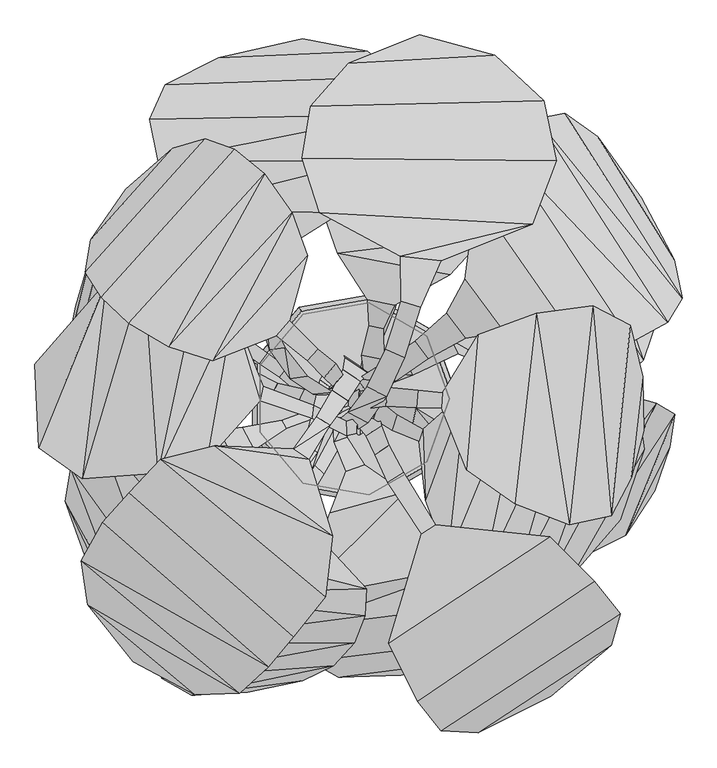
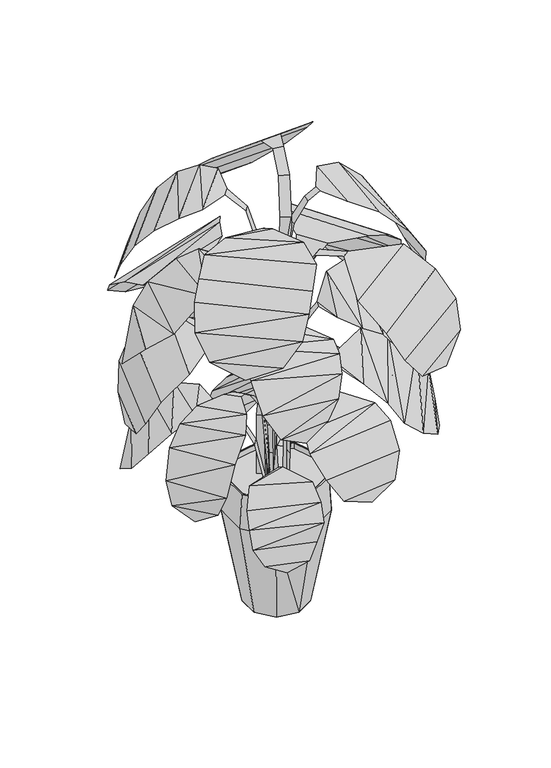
"""IFC4 building model written with IfcOpenShell, lengths in millimetres: geographic element geometry, Enscape AssetDefinition - Potted Plant 120 Monstera Deliciosa : Enscape AssetDefinition - Potted Plant 120 Monstera Deliciosa."""

from ifc_helpers import new_model, si_unit, origin, place, context, project, spatial, triangles, source, transform, mapped, element, save


def geographic_element_f887d327(model_context):
    return source(origin(), model_context, "Body", "Tessellation", [
        triangles([(-548.914024, 59.2540004, 1087.1479586), (14.1820002, -55.9360025, 468.888022), (-15.2340004, -26.6000002, 476.3439986), (-463.0500063, -270.8930035, 627.2840223), (-16.5400004, -15.1439998, 472.4410028), (85.1020002, -478.4019762, 638.721987), (524.0640146, -159.2659872, 598.994034), (23.0680006, -13.3640008, 471.2879846), (36.1669989, -10.7620009, 451.4220097), (527.7839911, 234.3949951, 541.5279922), (49.4999991, 8.3140007, 472.6490207), (119.8279965, 563.2029774, 701.6469978), (-436.7649828, 265.9429968, 503.152028), (-34.1569994, -3.8970002, 458.9159926), (-11.7490001, 8.2110001, 442.7750084), (-478.2890107, 160.2649996, 761.3989466), (-2.7759999, 3.795, 454.7840137), (-85.9950053, 622.4560467, 903.3240046), (-391.6290024, 362.7280048, 1215.7909784), (-13.6599992, 33.5120011, 464.9280167), (-13.3709998, 74.9890002, 430.3340163), (-379.1219896, -454.7910264, 1273.4078831), (-0.957, -21.1839995, 450.3779963), (344.7430198, -515.0640189, 1114.5980272), (2.6650002, -35.1839988, 471.0490093), (464.6879877, -209.6679979, 889.9790342), (500.6489831, 347.9729825, 919.9359993), (23.5389997, -6.5950002, 475.7650005), (33.496, 7.1140002, 447.2410149), (121.6440012, 444.3430086, 402.687012), (11.3319993, -45.7220002, 456.8740025), (116.6929953, 629.2669682, 1252.3799515), (-8.0469998, -29.3300002, 479.8929826), (505.3399758, -55.047998, 1198.3150103), (-45.2390037, 49.5090011, 459.4359827), (-180.7689988, -507.9349846, 985.2380453), (-21.6719988, -13.616999, 473.6750118), (-215.9159995, -442.6569923, 442.0270163), (114.2669987, 0.0, 0.0), (140.4309995, 117.5900063, 370.8530176), (19.8420006, 112.5309946, 0.0), (87.5340011, 73.4490006, 0.0), (87.5340011, -73.4490006, 0.0), (140.1890084, -117.8790057, 370.8530176), (133.9119933, -112.3659974, 502.4059979), (31.6199995, -180.4119893, 370.8530176), (174.8100057, 0.0, 502.4059979), (30.3550013, -172.1539905, 502.4059979), (168.9070048, 0.0, 502.4059979), (-87.4050028, -151.3900053, 502.4059979), (129.3900037, -108.5719975, 502.4059979), (129.3900037, -108.5719975, 481.2920251), (168.9070048, 0.0, 481.2920251), (129.3910029, 108.5709983, 502.4059979), (0.0, 0.0, 481.2920251), (29.3300002, -166.3410095, 502.4059979), (-84.454002, -146.27799, 502.4059979), (-84.454002, -146.27799, 481.2920251), (29.3300002, -166.3410095, 481.2920251), (-164.2680074, -59.7889968, 502.4059979), (-158.7209986, -57.7699976, 502.4059979), (-164.2680074, 59.7889968, 502.4059979), (-158.7209986, 57.7699976, 502.4059979), (-158.7209986, -57.7699976, 481.2920251), (-172.1809874, -62.4679984, 370.8530176), (-91.4179937, 158.7170018, 370.8530176), (-158.7209986, 57.7699976, 481.2920251), (30.3550013, 172.1539905, 502.4059979), (-87.4050028, 151.3900053, 502.4059979), (-84.454002, 146.27799, 502.4059979), (29.3300002, 166.3410095, 502.4059979), (-84.454002, 146.27799, 481.2920251), (29.3300002, 166.3410095, 481.2920251), (129.3910029, 108.5709983, 481.2920251), (133.9119933, 112.3659974, 502.4059979), (183.1620031, -0.188, 370.8530176), (31.9910002, 180.346005, 370.8530176), (-57.133999, 98.958004, 0.0), (-107.376004, 39.0819986, 0.0), (0.0, 0.0, 0.0), (-57.133999, -98.958004, 0.0), (-172.0519981, 62.8220012, 370.8530176), (-107.376004, -39.0819986, 0.0), (19.8420006, -112.5309946, 0.0), (-91.7440003, -158.5290045, 370.8530176), (-135.2620018, -451.9990093, 467.2619948), (-101.3049992, -442.9939994, 524.1829754), (-290.6880162, -428.6440032, 482.9439955), (-323.6329711, -409.3810075, 547.4540113), (-70.4500012, -435.4729832, 586.327002), (-324.4999967, -385.5719956, 614.3340134), (-61.8830005, -400.1380033, 643.6629644), (-70.2650016, -358.2580015, 702.330023), (-317.071998, -357.1829945, 672.6960033), (-283.7510123, -315.6260107, 735.907988), (-154.5359888, -306.6320103, 759.203005), (-119.8259981, -250.1949936, 795.0620081), (-166.626003, -303.7419977, 761.5610006), (-86.7789963, -193.4680056, 799.3389999), (-136.8100086, -242.3350083, 800.8419605), (-47.9520013, -129.5689899, 756.7160202), (-102.406004, -182.4630087, 805.5220528), (-17.6369992, -75.4809986, 661.7959419), (-64.2369993, -114.6190031, 762.2409737), (-1.7829999, -35.0610026, 471.8640032), (-34.0490004, -58.9670039, 665.9489588), (-85.4760054, -487.688982, 1028.1009813), (-277.4769948, -512.6680169, 1035.0029583), (-31.9099981, -461.7890004, 1082.9110079), (-329.102005, -483.633997, 1132.3889471), (4.0299999, -421.8519759, 1145.3980368), (22.5549982, -375.0779778, 1191.3210331), (-339.6480183, -422.803989, 1237.680994), (-324.7370098, -338.0259879, 1311.967012), (25.5560005, -328.692001, 1220.2939739), (-287.6980097, -249.4250007, 1344.938982), (-40.2409985, -257.7649894, 1250.0520412), (-83.9539962, -166.0599947, 1235.3509037), (-188.3099992, -193.6029901, 1307.10103), (-59.7979988, -92.4869964, 1128.3030773), (-104.1589947, -154.2390048, 1241.8310314), (-81.7169961, -77.5930018, 1133.6590004), (-69.5659981, -29.1970006, 1002.9950283), (-43.210998, -48.8769993, 999.2359554), (-55.2649997, 32.8539994, 726.4189596), (-21.1149993, 6.5660004, 724.4809965), (-17.1519997, 27.7930006, 458.7939797), (483.9250039, -136.4600028, 1255.6669601), (503.4689781, 38.2529976, 1238.1829983), (482.0619999, 127.0209986, 1326.3760162), (417.0350098, 161.0089949, 1437.8680481), (448.8640263, -202.8790046, 1348.1780285), (319.2229932, 147.8140063, 1533.8071049), (376.522984, -217.7419963, 1459.3379585), (282.124004, -181.9570076, 1549.4480106), (217.9440007, 110.8559969, 1575.2439651), (198.2020008, -122.7850017, 1583.8470737), (156.6999919, 10.3949994, 1576.7229446), (114.0059954, 14.4729992, 1551.82897), (155.1530115, -16.0489999, 1577.7000652), (61.8490001, 19.7219998, 1476.009906), (111.389004, -15.6529996, 1552.4409966), (59.0329973, -13.0279998, 1476.8081131), (35.5300011, 17.1329999, 1358.1919521), (14.0030004, 12.8619999, 1172.8329901), (32.8680019, -16.4679992, 1359.9300728), (10.8599998, -25.0189988, 1173.4910168), (12.5989993, 16.3579995, 879.163052), (9.249, -23.7649988, 879.5649897), (-5.1320002, 6.1009999, 478.7810228), (-6.0220002, 580.5460321, 1296.2019859), (-71.4640018, 506.1460313, 1382.0810463), (247.3799947, 594.5320244, 1286.335873), (332.38102, 515.124989, 1382.3060326), (-86.1250028, 415.5999956, 1484.6550179), (354.1179926, 411.9999973, 1500.414085), (-56.3560032, 321.3679931, 1575.7561432), (83.6319955, 246.360998, 1642.7391186), (312.4349991, 301.5730167, 1605.2239666), (84.9219967, 168.2360065, 1657.2010265), (153.8609937, 238.4590094, 1650.5110279), (57.6369979, 85.4189958, 1609.1230019), (91.2169976, 70.3499982, 1611.3810036), (118.9080036, 158.4550083, 1661.99492), (25.9110002, 20.806999, 1495.0709518), (59.6089978, 3.3489999, 1494.2390259), (-7.0600001, -23.079001, 1243.646909), (28.0380006, -41.3860004, 1242.3590515), (-22.472, -35.925001, 910.3419628), (-22.5989999, -28.0649998, 457.5969961), (10.576001, -53.1240012, 909.7369852), (208.9910043, 455.3300197, 448.8570136), (29.7289993, 435.3609987, 444.3979835), (-5.3440001, 429.727004, 484.4429955), (241.2340035, 457.0339854, 496.0720096), (-24.2799996, 408.0299998, 536.8829996), (-16.2360003, 387.6009779, 594.7549759), (260.5370041, 436.2659944, 555.4429859), (256.0270141, 408.4039959, 621.6090054), (24.8290009, 364.0980157, 648.8900436), (214.0340105, 371.497019, 676.1590187), (100.9239996, 329.7520017, 708.0630306), (87.2720077, 278.5549995, 741.8970119), (122.4030029, 328.2960222, 713.5089918), (104.8529931, 274.967991, 747.8949743), (66.6399958, 222.5019892, 750.4230177), (87.3730008, 214.9749959, 758.2719572), (45.509, 175.486, 727.9049881), (75.2770004, 158.0979989, 737.4350023), (46.2500022, 87.4499946, 651.5690226), (24.8719988, 101.7830042, 646.224), (14.3699997, 50.5190003, 543.7149954), (14.3659995, 20.6630011, 444.4799915), (38.8159992, 33.8630016, 549.3040074), (75.4840008, 29.9150004, 1031.9709486), (35.2500014, -0.719, 866.913945), (8.5239999, 33.5349988, 867.2639963), (-1.055, 24.8980011, 475.7990101), (51.6109985, 60.8400001, 1032.9320091), (196.4440049, 104.5280038, 1211.2390034), (108.638, 99.5380013, 1142.2440142), (131.4489987, 69.5009994, 1140.8499132), (163.7820087, 147.8729962, 1213.4519497), (263.1390073, 116.2409971, 1249.1529682), (399.1379917, 84.3640002, 1251.7660355), (214.3590088, 348.8340128, 1266.7889557), (195.6990104, 206.3210001, 1253.9599422), (261.1049927, 432.3840002, 1230.2089211), (483.9420087, 97.249996, 1216.6760262), (546.3219947, 131.9980022, 1153.8189617), (571.4230062, 173.6550071, 1076.0410057), (320.2880081, 484.3430017, 1159.5469551), (558.1669839, 240.4170113, 999.555994), (425.2539848, 453.6300144, 990.6140253), (368.7750195, 494.1450196, 1071.4559658), (506.2850126, -87.259999, 956.604982), (496.9849989, -22.3620003, 1038.0189079), (326.1929893, -337.0320079, 1017.9890259), (380.7520137, -305.8140006, 952.8690182), (449.5090087, 6.2259997, 1118.9030697), (279.8239809, -326.5689837, 1085.471026), (383.5049706, 28.7500007, 1170.479064), (226.2759958, -304.2900021, 1154.9589357), (303.2360148, 55.5000008, 1215.5350348), (165.223, -276.8959983, 1183.0240831), (196.6080029, 11.7189999, 1224.0209267), (122.490007, -53.0109994, 1167.8979715), (127.482998, -175.2920075, 1177.667942), (77.6630012, -27.3429985, 1094.9110022), (115.9059975, -73.5749967, 1165.6750694), (69.0440006, -54.2090004, 1091.9800037), (47.3230017, -3.4659999, 989.4109737), (37.5959996, -34.8929987, 987.1320431), (27.0399988, 12.5750001, 782.6330429), (12.8309994, -0.934, 469.3870105), (14.0620005, -30.9430014, 783.1189871), (449.3919737, -426.5010017, 1168.2600134), (464.2260246, -371.6700099, 1255.4270039), (154.1319982, -574.0669945, 1239.7289795), (218.1400098, -578.2619782, 1155.2189489), (419.4589897, -315.9639988, 1354.7430347), (113.2399993, -523.3360067, 1329.766943), (342.66702, -238.8419984, 1435.258033), (63.5410025, -423.1290055, 1416.2900047), (144.8780027, -218.0009922, 1460.9890205), (88.9750015, -127.0069915, 1433.1779274), (120.5769969, -233.6149919, 1459.4231277), (39.9180031, -96.611999, 1326.7280296), (61.2159991, -144.7030043, 1431.0750034), (64.4190013, -80.8169965, 1328.2969746), (51.0720007, -46.5609979, 1103.497978), (24.382001, -64.0499967, 1102.9950291), (45.2869977, -17.5819994, 819.4900229), (29.7640013, -1.089, 452.3549832), (6.573, -42.9739985, 818.9580059), (-457.6590199, -356.6059948, 1313.7789654), (-271.1719836, -512.2759987, 1318.1459953), (-194.4140053, -509.5900434, 1395.1840256), (-468.3699941, -280.3769995, 1389.1599747), (-144.2819999, -463.5879822, 1460.0440201), (-431.590008, -213.6349977, 1457.7820942), (-101.5190032, -411.8270064, 1506.631002), (-45.5839999, -342.7290075, 1552.3080105), (-385.7349944, -163.1170057, 1504.2820175), (-331.184, -104.429, 1546.1530083), (-238.1700009, -81.4390062, 1567.0729523), (-33.8880001, -237.314003, 1572.7101082), (-74.6070013, -104.8019969, 1560.0509972), (-38.2629988, -46.3019975, 1506.3650299), (-100.8400022, -86.4860001, 1559.6690437), (-7.1700003, -3.632, 1315.1509747), (-61.2049987, -31.1030002, 1506.5219971), (14.8659996, 30.1170003, 1019.6579647), (-34.7630012, 14.6730006, 1315.3091045), (28.6200009, 44.1559984, 724.8010351), (-12.3229999, 71.2990001, 725.0360498), (-15.8210001, 50.449001, 1019.9880318), (30.5810004, 45.8509985, 430.1359906), (-17.3659992, 44.2759993, 883.9669739), (-31.0659998, 13.7909994, 464.8940071), (-15.3610003, 41.6100011, 1177.8190229), (-33.0069992, 21.6359999, 1178.0810709), (-42.4860014, 15.8610004, 884.7840025), (-58.612002, 85.2250033, 1529.2970604), (-27.4659993, 60.1300007, 1397.7479679), (-48.3990034, 36.3329976, 1397.4240051), (-107.6690003, 135.1100034, 1586.1610313), (-76.6030005, 65.2630041, 1529.9260918), (-130.4039952, 108.4199992, 1586.2241089), (-241.1910011, 65.3119973, 1590.3490025), (-77.3209981, 246.9999852, 1589.6409061), (-150.883005, 388.7659867, 1513.7830364), (-103.9170037, 321.6320031, 1566.3509033), (-317.5129958, 89.934, 1567.2960491), (-386.4959945, 130.5260081, 1517.4079605), (-203.2629928, 431.3259979, 1441.7130169), (-253.8790166, 450.0199877, 1351.6029648), (-310.5210171, 433.5050074, 1262.4360237), (-461.6149921, 218.4500018, 1357.5060928), (-434.1500261, 175.0979968, 1448.0619026), (-452.6249886, 275.1620198, 1266.5049614), (-231.1639968, 589.6059806, 942.8380171), (-323.3079909, 543.3719931, 1009.1700874), (27.2419986, 600.9859909, 1004.8409912), (-350.0940013, 483.7109908, 1076.6079769), (80.327001, 556.7110044, 1116.5120819), (69.9269999, 490.9020126, 1197.5970308), (-335.9700088, 411.1259954, 1125.915069), (23.8410003, 411.9760162, 1237.3640076), (-314.2409935, 326.7239888, 1155.7300369), (-18.9590001, 322.0880073, 1251.8990215), (-158.8379973, 233.8729885, 1209.6659889), (-176.7240058, 233.2459918, 1203.8600206), (-150.7810036, 163.2130028, 1199.3479414), (-168.1900064, 161.4019941, 1193.4640709), (-142.7369997, 84.6400008, 1138.9519913), (-115.4239957, 87.7300012, 1147.7760166), (-107.2959944, 34.7610005, 1058.8029591), (-66.9720022, 7.551, 934.8100187), (-76.5310027, 38.6309996, 1068.2239683), (-24.6830001, 1.3989999, 453.6630066), (-33.0130013, 11.628, 942.9220236), (-499.9490258, 52.7440008, 794.0920092), (-450.3640074, 254.4380123, 822.3509674), (-500.7190006, -12.7039995, 874.4639929), (-426.6250131, 288.4489813, 917.2049887), (-466.2499927, -54.3640009, 974.6150019), (-382.9390168, 284.9259951, 1020.9430607), (-371.7549974, -76.396, 1065.7010118), (-227.6040034, 10.3290003, 1103.9190279), (-206.5020029, 66.3599983, 1113.6239588), (-286.1840215, 227.7839888, 1117.369079), (-142.833996, -2.0890001, 1026.7570227), (-129.159004, 26.3589993, 1029.8000782), (-96.7710009, -14.4330001, 921.2589563), (-82.0210019, 16.0230011, 924.2879866), (-61.9259984, -20.4959987, 791.1990171), (-28.6970015, -26.5360006, 439.6089952), (-46.9239981, 10.0209999, 793.4870316), (-64.2800017, 21.8409997, 639.7679987), (-81.935006, 1.2499999, 638.8580252), (-48.7849991, -20.3540015, 459.3290125), (-112.0189982, 53.3150006, 741.0219927), (-125.4879981, 37.1810018, 739.8509886), (-145.7300038, 78.6249973, 779.1749691), (-182.815004, 104.7149928, 794.6739504), (-180.6589946, 189.8799979, 797.3460257), (-196.0919915, 86.8190012, 792.6370108), (-160.08, 60.3940017, 777.2830061), (-273.0810059, 56.0120017, 782.8599913), (-221.2370047, 285.6389966, 761.1730156), (-363.3599793, 56.4940035, 744.9970407), (-277.1470004, 348.3260133, 691.0139986), (-437.0430182, 79.0759963, 676.6449629), (-340.0130033, 360.0009911, 610.2860046), (-472.4769745, 128.4179973, 602.0399963), (14.7809996, 559.9009987, 737.7049713), (219.626002, 529.8039986, 742.9800127), (-41.7320003, 519.0029863, 812.4399445), (257.4630093, 462.488994, 816.1659525), (-71.9640031, 471.202997, 876.6859503), (270.549002, 399.2100077, 867.3800503), (271.8999915, 339.2080015, 918.9469608), (-82.3550022, 416.4179689, 918.8969639), (-53.8910011, 332.9090037, 942.8899761), (-25.2429995, 251.7290025, 946.2529976), (232.2790087, 282.4830119, 946.5720188), (26.7830014, 171.541001, 923.3959625), (169.4550091, 214.7150009, 951.4239756), (29.7929989, 126.3639893, 867.9409899), (54.8149999, 121.0929992, 868.4650131), (73.5880001, 161.883996, 924.6010489), (16.8210004, 75.3000004, 721.8700367), (55.0220003, 67.7210027, 723.9430206), (25.5249999, 13.1760001, 471.7689872), (475.8700087, 299.3220095, 576.8799768), (532.2449833, 147.6089952, 571.7089625), (408.2100034, 345.8099968, 634.1670324), (337.4019708, 344.9940219, 720.9619526), (504.1909907, 66.3930041, 633.2080067), (265.09601, 292.5789981, 800.3280384), (449.2109891, 16.0220008, 718.4410309), (373.1120004, 12.516, 790.0110083), (216.4620054, 209.9560072, 840.14305), (285.3780024, 36.3019993, 832.1939713), (172.2200111, 101.3770061, 835.0339869), (92.4160069, 66.4170034, 785.7949865), (183.8149974, 77.5010016, 833.4989788), (104.7370027, 40.839999, 784.0800476), (34.3269995, 46.3270006, 694.0150509), (47.7860003, 19.1409987, 692.7739929), (3.742, 38.518997, 574.9570201), (24.4959998, -1.6189999, 575.977016), (30.2949986, 26.1029988, 473.6000164), (52.849999, -25.0109983, 678.6029829), (57.8939998, 2.347, 680.40905), (104.233, -51.2390009, 843.3020142), (111.1140026, -16.059, 846.7149599), (163.6649919, -79.3820005, 924.4580343), (171.6690092, -53.2860008, 930.0410511), (199.1259996, -224.0030059, 916.9650324), (335.9479897, 27.7339994, 941.4380299), (270.5559965, -260.9070033, 836.177013), (430.1220016, 19.3200008, 911.4239462), (322.2570013, -280.1609879, 751.2380116), (526.6749744, -7.3680005, 827.1589588), (396.1819948, -275.1489937, 682.2340113), (558.8989886, -27.1940001, 739.8730076), (474.2090272, -235.8439982, 625.925021), (549.916034, -84.3100064, 651.0519756), (186.0579928, -455.0950049, 679.840044), (224.9480063, -417.3890216, 759.5710058), (-72.4520002, -454.1139965, 766.7390276), (-23.2240003, -481.9819902, 682.3919958), (226.5660035, -355.8560042, 842.4040312), (-101.2210018, -397.2479908, 848.9649679), (206.0670004, -288.0280041, 879.0410391), (91.0649993, -161.4179997, 903.0089802), (-95.1299946, -346.6879955, 901.3140255), (-37.7320015, -197.4720127, 922.7889502), (21.9800015, -114.0420034, 898.7120041), (-8.3419997, -66.3639997, 859.4840206), (-10.139, -125.3779939, 904.1849985), (-30.7869993, -74.5820028, 863.4820324), (-9.1960003, -32.8619999, 757.4589981), (21.871001, -3.4559999, 473.0520121), (-33.6499991, -31.9290013, 759.4379471), (-418.4089811, -342.2360144, 680.4929838), (-495.9979952, -177.2059895, 645.7190163), (-396.3429952, -359.2319973, 750.976981), (-486.7500132, -120.3460063, 707.1609781), (-341.7570102, -322.1009789, 842.8859785), (-437.3799889, -59.595999, 784.7100237), (-267.9440011, -263.65798, 899.6170361), (-229.5099917, -202.8100044, 933.0429754), (-389.7080077, -43.7339993, 854.153968), (-316.2539884, -28.6150003, 891.9789848), (-168.7909872, -87.9720013, 924.0819672), (-189.7350031, -49.3669994, 914.9940044), (-229.6090045, -54.6270027, 923.2370333), (-198.6570057, -114.4309967, 937.5380499), (-112.8489985, -50.6510008, 873.6649864), (-121.0910008, -36.8819989, 870.8450277), (-60.7899986, -31.6429995, 796.9580406), (-25.9519997, -21.4869992, 705.1150274), (-69.1870015, -18.5880006, 794.9410126), (-36.5779999, -5.8880002, 704.0499762), (-17.4529999, -20.3069999, 591.4909673), (-28.5929994, -3.9750001, 590.7980227), (-28.3840006, -7.3239999, 475.3989982), (19.3099996, -27.0700001, 605.2700317), (18.7110002, -58.6600005, 604.6429988), (14.5880006, -35.1939978, 469.6440079), (10.5450004, -62.1270036, 891.9469374), (14.0870001, -62.0270006, 748.8649733), (14.7439992, -28.2899997, 748.9939625), (9.3839998, -32.7009995, 1035.0740295), (8.8369998, -59.9820037, 1035.7069851), (11.0789999, -35.0040021, 891.8329908), (-9.0650001, -38.6880001, 1211.4679865), (-66.4639982, -11.0429999, 1351.2900478), (-9.8719992, -64.2229967, 1214.0630316), (-69.3060031, -34.1380007, 1357.5270218), (-153.670998, 21.1340002, 1394.9920315), (-158.8349997, -3.6079999, 1403.0849968), (-251.6019935, -107.3949981, 1415.5021168), (-205.8710094, 152.5339853, 1369.8360088), (-268.4319982, 191.0620115, 1328.0840515), (-336.6700024, -129.2540018, 1396.9180767), (-360.9890121, 217.5480038, 1253.1589737), (-467.3529777, -138.8790048, 1296.7318954), (-425.2070037, 201.4500039, 1189.954038), (-542.406972, -84.6740013, 1229.4929764)], [[472, 1, 473], [472, 473, 471], [470, 472, 471], [470, 471, 469], [468, 470, 469], [469, 466, 467], [467, 468, 469], [467, 466, 465], [464, 467, 465], [464, 465, 463], [461, 464, 463], [461, 463, 462], [460, 461, 462], [460, 462, 458], [457, 460, 458], [458, 454, 459], [459, 457, 458], [454, 455, 456], [456, 459, 454], [455, 452, 451], [451, 456, 455], [452, 2, 453], [453, 451, 452], [450, 449, 448], [448, 3, 450], [449, 447, 445], [445, 448, 449], [445, 447, 446], [444, 445, 446], [444, 446, 443], [442, 444, 443], [442, 443, 439], [438, 442, 439], [439, 440, 441], [441, 438, 439], [441, 440, 437], [435, 441, 437], [435, 437, 436], [434, 435, 436], [434, 436, 433], [432, 434, 433], [432, 433, 431], [430, 432, 431], [430, 431, 429], [428, 430, 429], [428, 429, 4], [426, 5, 427], [425, 426, 427], [425, 427, 424], [422, 425, 424], [422, 424, 423], [421, 422, 423], [421, 423, 420], [418, 421, 420], [418, 420, 419], [417, 418, 419], [417, 419, 416], [415, 417, 416], [415, 416, 413], [412, 415, 413], [412, 413, 414], [411, 412, 414], [411, 414, 6], [409, 410, 408], [409, 7, 410], [407, 408, 406], [407, 409, 408], [405, 406, 404], [405, 407, 406], [403, 404, 402], [403, 405, 404], [401, 402, 400], [401, 403, 402], [399, 400, 398], [399, 401, 400], [397, 398, 396], [397, 399, 398], [395, 396, 394], [395, 397, 396], [8, 395, 394], [392, 9, 393], [392, 393, 391], [390, 392, 391], [390, 391, 389], [387, 390, 389], [387, 389, 388], [386, 387, 388], [386, 388, 385], [384, 386, 385], [384, 385, 383], [381, 384, 383], [381, 383, 382], [379, 381, 382], [379, 382, 380], [378, 379, 380], [378, 380, 377], [376, 378, 377], [376, 377, 10], [375, 11, 374], [373, 375, 374], [373, 374, 371], [370, 373, 371], [370, 371, 372], [368, 370, 372], [368, 372, 369], [366, 368, 369], [366, 369, 367], [365, 366, 367], [365, 367, 363], [364, 365, 363], [364, 363, 362], [361, 364, 362], [361, 362, 360], [359, 361, 360], [359, 360, 358], [357, 359, 358], [357, 358, 12], [355, 356, 354], [355, 13, 356], [353, 354, 352], [353, 355, 354], [351, 352, 350], [351, 353, 352], [347, 350, 348], [347, 351, 350], [346, 348, 349], [346, 347, 348], [345, 349, 344], [345, 346, 349], [343, 344, 341], [343, 345, 344], [340, 341, 342], [340, 343, 341], [14, 340, 342], [338, 15, 339], [337, 338, 339], [337, 339, 336], [335, 337, 336], [335, 336, 334], [333, 335, 334], [333, 334, 331], [330, 333, 331], [330, 331, 332], [329, 330, 332], [329, 332, 328], [327, 329, 328], [327, 328, 326], [325, 327, 326], [325, 326, 324], [323, 325, 324], [323, 324, 16], [321, 17, 322], [319, 321, 322], [319, 322, 320], [318, 319, 320], [318, 320, 317], [316, 318, 317], [316, 317, 314], [315, 316, 314], [315, 314, 312], [313, 315, 312], [313, 312, 311], [310, 313, 311], [310, 311, 309], [308, 310, 309], [308, 309, 307], [305, 308, 307], [305, 307, 306], [303, 305, 306], [303, 306, 304], [302, 303, 304], [302, 304, 18], [298, 301, 299], [298, 19, 301], [297, 299, 300], [297, 298, 299], [296, 300, 295], [296, 297, 300], [292, 295, 294], [292, 296, 295], [293, 294, 290], [293, 292, 294], [291, 290, 289], [291, 293, 290], [287, 289, 288], [287, 291, 289], [284, 288, 286], [284, 287, 288], [285, 286, 282], [285, 284, 286], [281, 282, 283], [281, 285, 282], [279, 283, 280], [279, 281, 283], [20, 279, 280], [278, 21, 276], [275, 278, 276], [275, 276, 277], [273, 275, 277], [273, 277, 274], [271, 273, 274], [271, 274, 272], [269, 271, 272], [269, 272, 270], [268, 269, 270], [268, 270, 266], [267, 268, 266], [267, 266, 265], [263, 267, 265], [263, 265, 264], [262, 263, 264], [262, 264, 261], [260, 262, 261], [260, 261, 259], [258, 260, 259], [258, 259, 256], [257, 258, 256], [257, 256, 22], [254, 23, 255], [253, 254, 255], [253, 255, 252], [251, 253, 252], [251, 252, 248], [250, 251, 248], [250, 248, 249], [246, 250, 249], [246, 249, 247], [245, 246, 247], [245, 247, 244], [243, 245, 244], [243, 244, 242], [241, 243, 242], [241, 242, 239], [238, 241, 239], [238, 239, 240], [237, 238, 240], [237, 240, 24], [235, 25, 236], [234, 235, 236], [234, 236, 233], [232, 234, 233], [232, 233, 231], [229, 232, 231], [229, 231, 230], [227, 229, 230], [227, 230, 228], [226, 227, 228], [226, 228, 225], [224, 226, 225], [224, 225, 223], [222, 224, 223], [222, 223, 221], [220, 222, 221], [220, 221, 218], [217, 220, 218], [217, 218, 219], [216, 217, 219], [216, 219, 26], [213, 214, 215], [213, 27, 214], [211, 215, 212], [211, 213, 215], [210, 212, 208], [210, 211, 212], [209, 208, 206], [209, 210, 208], [205, 206, 207], [205, 209, 206], [204, 207, 203], [204, 205, 207], [200, 203, 201], [200, 204, 203], [202, 201, 199], [202, 200, 201], [195, 199, 197], [195, 202, 199], [196, 197, 198], [196, 195, 197], [28, 196, 198], [193, 29, 194], [192, 193, 194], [192, 194, 190], [191, 192, 190], [191, 190, 189], [188, 191, 189], [188, 189, 187], [186, 188, 187], [186, 187, 185], [183, 186, 185], [183, 185, 184], [182, 183, 184], [182, 184, 181], [180, 182, 181], [180, 181, 179], [177, 180, 179], [177, 179, 178], [176, 177, 178], [176, 178, 175], [174, 176, 175], [174, 175, 172], [173, 174, 172], [173, 172, 30], [170, 31, 171], [169, 170, 171], [169, 171, 168], [167, 169, 168], [167, 168, 166], [165, 167, 166], [165, 166, 163], [162, 165, 163], [162, 163, 164], [160, 162, 164], [160, 164, 161], [158, 160, 161], [158, 161, 159], [157, 158, 159], [157, 159, 156], [155, 157, 156], [155, 156, 154], [152, 155, 154], [152, 154, 153], [151, 152, 153], [151, 153, 32], [150, 33, 149], [148, 150, 149], [148, 149, 147], [145, 148, 147], [145, 147, 146], [144, 145, 146], [144, 146, 143], [141, 144, 143], [141, 143, 142], [139, 141, 142], [139, 142, 140], [138, 139, 140], [138, 140, 137], [136, 138, 137], [136, 137, 135], [133, 136, 135], [133, 135, 134], [131, 133, 134], [131, 134, 132], [130, 131, 132], [130, 132, 128], [129, 130, 128], [129, 128, 34], [127, 35, 125], [126, 127, 125], [126, 125, 123], [124, 126, 123], [124, 123, 122], [120, 124, 122], [120, 122, 121], [118, 120, 121], [118, 121, 119], [117, 118, 119], [117, 119, 116], [115, 117, 116], [115, 116, 114], [112, 115, 114], [112, 114, 113], [111, 112, 113], [111, 113, 110], [109, 111, 110], [109, 110, 108], [107, 109, 108], [107, 108, 36], [105, 37, 106], [103, 105, 106], [103, 106, 104], [101, 103, 104], [101, 104, 102], [99, 101, 102], [99, 102, 100], [97, 99, 100], [97, 100, 98], [96, 97, 98], [96, 98, 95], [93, 96, 95], [93, 95, 94], [92, 93, 94], [92, 94, 91], [90, 92, 91], [90, 91, 89], [87, 90, 89], [87, 89, 88], [86, 87, 88], [86, 88, 38], [65, 85, 50], [85, 81, 84], [81, 85, 65], [65, 83, 81], [83, 65, 82], [82, 79, 83], [79, 82, 66], [83, 79, 80], [81, 83, 80], [84, 81, 80], [79, 78, 80], [66, 78, 79], [78, 66, 77], [78, 41, 80], [77, 41, 78], [41, 77, 40], [76, 40, 75], [75, 47, 76], [47, 75, 54], [73, 74, 54], [74, 73, 55], [73, 72, 55], [72, 73, 71], [54, 71, 73], [71, 54, 75], [75, 68, 71], [40, 77, 68], [68, 75, 40], [77, 66, 69], [69, 68, 77], [71, 70, 72], [70, 71, 68], [68, 69, 70], [72, 67, 55], [67, 72, 70], [67, 64, 55], [64, 67, 63], [70, 63, 67], [63, 70, 69], [69, 62, 63], [66, 82, 62], [62, 69, 66], [50, 60, 65], [82, 65, 60], [60, 62, 82], [63, 61, 64], [61, 63, 62], [62, 60, 61], [64, 58, 55], [58, 64, 61], [61, 57, 58], [57, 61, 60], [60, 50, 57], [58, 59, 55], [59, 58, 57], [57, 56, 59], [56, 57, 50], [59, 52, 55], [52, 59, 56], [53, 74, 55], [52, 53, 55], [74, 53, 49], [49, 54, 74], [54, 49, 47], [53, 52, 51], [51, 49, 53], [56, 51, 52], [51, 56, 48], [50, 48, 56], [48, 50, 85], [49, 51, 45], [45, 47, 49], [48, 45, 51], [76, 47, 45], [45, 48, 46], [85, 46, 48], [84, 46, 85], [43, 84, 80], [46, 84, 43], [45, 44, 76], [46, 44, 45], [43, 44, 46], [39, 43, 80], [44, 43, 39], [39, 76, 44], [42, 39, 80], [41, 42, 80], [40, 42, 41], [76, 39, 42], [42, 40, 76]], closed=False),
    ])


if __name__ == "__main__":
    model = new_model("IFC4")
    model_context = context("Model", 3, world=origin())
    ifc_project = project(units=[si_unit("LENGTHUNIT", "METRE", prefix="MILLI")], contexts=[model_context])
    site = spatial("IfcSite", under=ifc_project)
    building = spatial("IfcBuilding", under=site)
    placement = place(None, origin())
    geographic_element_shape = geographic_element_f887d327(model_context)
    element("IfcGeographicElement", 1, ObjectType="Enscape AssetDefinition - Potted Plant 120 Monstera Deliciosa : Enscape AssetDefinition - Potted Plant 120 Monstera Deliciosa", at=placement, inside=building, context=model_context, shape_type="MappedRepresentation", body=[
        mapped(geographic_element_shape, transform((0.0, 0.0, 0.0), x_axis=(1.0, 0.0, 0.0), y_axis=(0.0, 1.0, 0.0), z_axis=(0.0, 0.0, 1.0))),
    ])
    save(model, "model.ifc")
